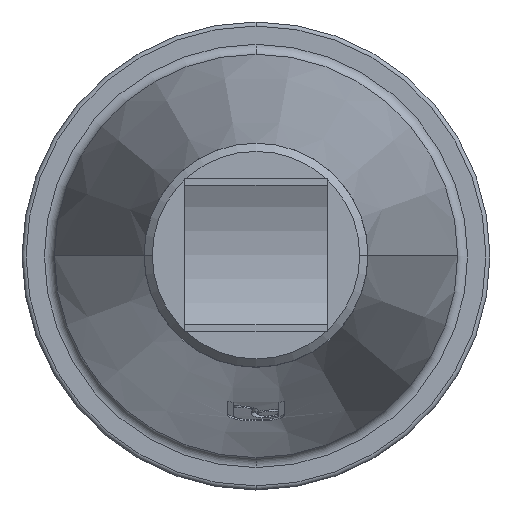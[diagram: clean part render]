
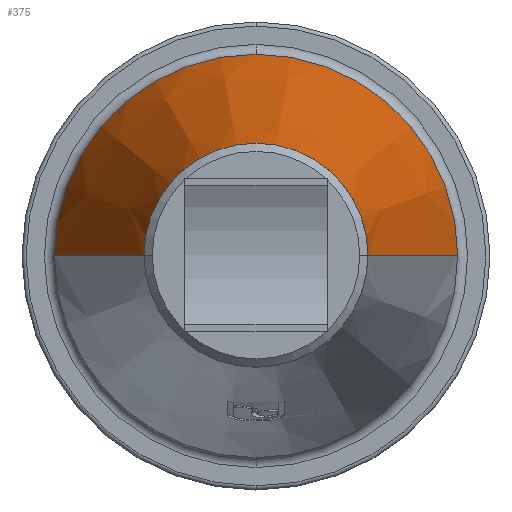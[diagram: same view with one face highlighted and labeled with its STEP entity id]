
A CAD part, top view. The second image highlights one B-rep face of the part: STEP entity #375.
In plain terms, the highlighted conical face has half-angle 12.633 degrees and reference radius 77.092 mm.
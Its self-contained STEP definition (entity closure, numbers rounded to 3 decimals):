
#375=ADVANCED_FACE('',(#747),#748,.T.);
#747=FACE_OUTER_BOUND('',#1149,.T.);
#748=CONICAL_SURFACE('',#1150,77.092,0.22);
#1149=EDGE_LOOP('',(#2024,#2025,#2026,#2027,#2028));
#1150=AXIS2_PLACEMENT_3D('',#2029,#2030,#2031);
#2024=ORIENTED_EDGE('',*,*,#2492,.T.);
#2025=ORIENTED_EDGE('',*,*,#2608,.F.);
#2026=ORIENTED_EDGE('',*,*,#2461,.F.);
#2027=ORIENTED_EDGE('',*,*,#2494,.T.);
#2028=ORIENTED_EDGE('',*,*,#2609,.T.);
#2029=CARTESIAN_POINT('',(338.587,452.631,-70.718));
#2030=DIRECTION('',(0.,0.,-1.0));
#2031=DIRECTION('',(1.0,0.,0.));
#2461=EDGE_CURVE('',#2935,#2937,#2938,.T.);
#2492=EDGE_CURVE('',#2991,#2992,#2993,.T.);
#2494=EDGE_CURVE('',#2935,#2994,#2996,.T.);
#2608=EDGE_CURVE('',#2937,#2992,#3169,.T.);
#2609=EDGE_CURVE('',#2994,#2991,#3170,.T.);
#2935=VERTEX_POINT('',#3687);
#2937=VERTEX_POINT('',#3689);
#2938=CIRCLE('',#3690,99.123);
#2991=VERTEX_POINT('',#3831);
#2992=VERTEX_POINT('',#3832);
#2993=LINE('',#3833,#3834);
#2994=VERTEX_POINT('',#3835);
#2996=LINE('',#3837,#3838);
#3169=CIRCLE('',#4451,99.123);
#3170=CIRCLE('',#4452,55.061);
#3687=CARTESIAN_POINT('',(239.464,452.631,-169.01));
#3689=CARTESIAN_POINT('',(338.587,551.754,-169.01));
#3690=AXIS2_PLACEMENT_3D('',#4769,#4770,#4771);
#3831=CARTESIAN_POINT('',(393.648,452.631,27.575));
#3832=CARTESIAN_POINT('',(437.709,452.631,-169.01));
#3833=CARTESIAN_POINT('',(415.678,452.631,-70.718));
#3834=VECTOR('',#4819,1.0);
#3835=CARTESIAN_POINT('',(283.526,452.631,27.575));
#3837=CARTESIAN_POINT('',(261.495,452.631,-70.718));
#3838=VECTOR('',#4823,1.0);
#4451=AXIS2_PLACEMENT_3D('',#4930,#4931,#4932);
#4452=AXIS2_PLACEMENT_3D('',#4933,#4934,#4935);
#4769=CARTESIAN_POINT('',(338.587,452.631,-169.01));
#4770=DIRECTION('',(0.,0.,-1.0));
#4771=DIRECTION('',(1.0,0.,0.));
#4819=DIRECTION('',(0.219,0.,-0.976));
#4823=DIRECTION('',(0.219,0.,0.976));
#4930=CARTESIAN_POINT('',(338.587,452.631,-169.01));
#4931=DIRECTION('',(0.,0.,-1.0));
#4932=DIRECTION('',(1.0,0.,0.));
#4933=CARTESIAN_POINT('',(338.587,452.631,27.575));
#4934=DIRECTION('',(0.,0.,-1.0));
#4935=DIRECTION('',(1.0,0.,0.));
